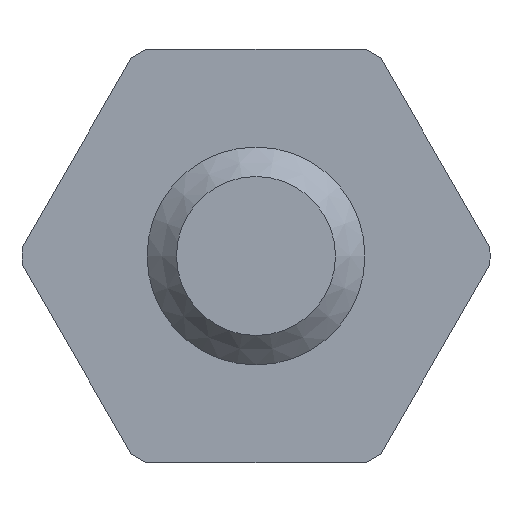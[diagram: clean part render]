
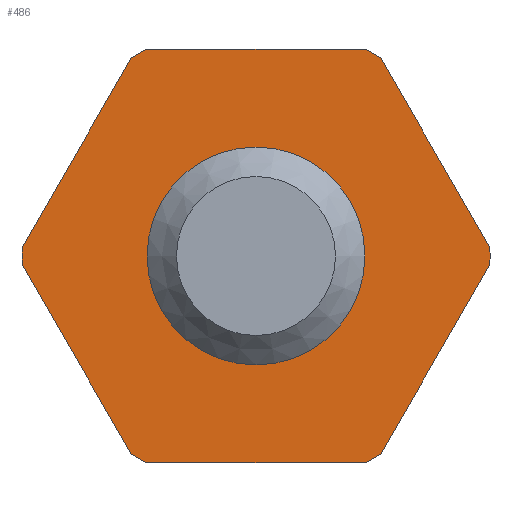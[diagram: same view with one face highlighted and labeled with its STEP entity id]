
A CAD part, left-side view. The second image highlights one B-rep face of the part: STEP entity #486.
In plain terms, the highlighted planar face has unit normal (-1, 0, 0).
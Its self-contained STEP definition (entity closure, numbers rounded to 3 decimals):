
#13=LINE($,#751,#37);
#17=LINE($,#760,#41);
#21=LINE($,#769,#45);
#25=LINE($,#778,#49);
#31=LINE($,#790,#55);
#35=LINE($,#818,#59);
#37=VECTOR($,#613,2.521);
#41=VECTOR($,#619,2.521);
#45=VECTOR($,#625,2.521);
#49=VECTOR($,#631,2.521);
#55=VECTOR($,#639,2.521);
#59=VECTOR($,#681,2.521);
#78=PLANE($,#548);
#97=FACE_BOUND($,#171,.T.);
#124=FACE_OUTER_BOUND($,#170,.T.);
#170=EDGE_LOOP($,(#390,#391,#392,#393,#394,#395,#396,#397,#398,#399,#400,
#401));
#171=EDGE_LOOP($,(#402));
#193=CIRCLE($,#527,2.7);
#194=CIRCLE($,#529,2.7);
#197=CIRCLE($,#533,2.7);
#199=CIRCLE($,#536,2.7);
#201=CIRCLE($,#539,2.7);
#205=CIRCLE($,#547,0.927);
#206=CIRCLE($,#549,2.7);
#222=VERTEX_POINT($,#747);
#224=VERTEX_POINT($,#750);
#226=VERTEX_POINT($,#756);
#228=VERTEX_POINT($,#759);
#230=VERTEX_POINT($,#765);
#232=VERTEX_POINT($,#768);
#234=VERTEX_POINT($,#774);
#236=VERTEX_POINT($,#777);
#239=VERTEX_POINT($,#784);
#241=VERTEX_POINT($,#788);
#243=VERTEX_POINT($,#794);
#244=VERTEX_POINT($,#798);
#248=VERTEX_POINT($,#823);
#265=EDGE_CURVE($,#224,#222,#13,.T.);
#269=EDGE_CURVE($,#228,#226,#17,.T.);
#273=EDGE_CURVE($,#232,#230,#21,.T.);
#277=EDGE_CURVE($,#236,#234,#25,.T.);
#283=EDGE_CURVE($,#239,#241,#31,.T.);
#286=EDGE_CURVE($,#243,#241,#193,.T.);
#287=EDGE_CURVE($,#224,#244,#194,.T.);
#291=EDGE_CURVE($,#239,#234,#197,.T.);
#293=EDGE_CURVE($,#236,#230,#199,.T.);
#295=EDGE_CURVE($,#232,#226,#201,.T.);
#299=EDGE_CURVE($,#243,#244,#35,.T.);
#301=EDGE_CURVE($,#248,#248,#205,.T.);
#302=EDGE_CURVE($,#228,#222,#206,.T.);
#390=ORIENTED_EDGE($,*,*,#265,.T.);
#391=ORIENTED_EDGE($,*,*,#302,.F.);
#392=ORIENTED_EDGE($,*,*,#269,.T.);
#393=ORIENTED_EDGE($,*,*,#295,.F.);
#394=ORIENTED_EDGE($,*,*,#273,.T.);
#395=ORIENTED_EDGE($,*,*,#293,.F.);
#396=ORIENTED_EDGE($,*,*,#277,.T.);
#397=ORIENTED_EDGE($,*,*,#291,.F.);
#398=ORIENTED_EDGE($,*,*,#283,.T.);
#399=ORIENTED_EDGE($,*,*,#286,.F.);
#400=ORIENTED_EDGE($,*,*,#299,.T.);
#401=ORIENTED_EDGE($,*,*,#287,.F.);
#402=ORIENTED_EDGE($,*,*,#301,.T.);
#486=ADVANCED_FACE($,(#124,#97),#78,.T.);
#527=AXIS2_PLACEMENT_3D($,#796,#645,#646);
#529=AXIS2_PLACEMENT_3D($,#799,#649,#650);
#533=AXIS2_PLACEMENT_3D($,#805,#658,#659);
#536=AXIS2_PLACEMENT_3D($,#808,#664,#665);
#539=AXIS2_PLACEMENT_3D($,#811,#670,#671);
#547=AXIS2_PLACEMENT_3D($,#824,#688,#689);
#548=AXIS2_PLACEMENT_3D($,#825,#690,#691);
#549=AXIS2_PLACEMENT_3D($,#826,#692,#693);
#613=DIRECTION($,(0.,0.5,-0.866));
#619=DIRECTION($,(0.,-0.5,-0.866));
#625=DIRECTION($,(0.,-1.,0.));
#631=DIRECTION($,(0.,-0.5,0.866));
#639=DIRECTION($,(0.,0.5,0.866));
#645=DIRECTION('center_axis',(1.,0.,0.));
#646=DIRECTION('ref_axis',(0.,0.,-1.));
#649=DIRECTION('center_axis',(1.,0.,0.));
#650=DIRECTION('ref_axis',(0.,0.,-1.));
#658=DIRECTION('center_axis',(1.,0.,0.));
#659=DIRECTION('ref_axis',(0.,0.,-1.));
#664=DIRECTION('center_axis',(1.,0.,0.));
#665=DIRECTION('ref_axis',(0.,0.,-1.));
#670=DIRECTION('center_axis',(1.,0.,0.));
#671=DIRECTION('ref_axis',(0.,0.,-1.));
#681=DIRECTION($,(0.,1.,0.));
#688=DIRECTION('center_axis',(1.,0.,0.));
#689=DIRECTION('ref_axis',(0.,0.,-1.));
#690=DIRECTION('center_axis',(-1.,0.,0.));
#691=DIRECTION('ref_axis',(0.,0.,1.));
#692=DIRECTION('center_axis',(1.,0.,0.));
#693=DIRECTION('ref_axis',(0.,0.,-1.));
#747=CARTESIAN_POINT('',(-13.38,7.793,0.102));
#750=CARTESIAN_POINT('',(-13.38,6.532,2.286));
#751=CARTESIAN_POINT($,(-13.38,7.494,0.619));
#756=CARTESIAN_POINT('',(-13.38,6.532,-2.286));
#759=CARTESIAN_POINT('',(-13.38,7.793,-0.102));
#760=CARTESIAN_POINT($,(-13.38,7.506,-0.599));
#765=CARTESIAN_POINT('',(-13.38,3.834,-2.388));
#768=CARTESIAN_POINT('',(-13.38,6.355,-2.388));
#769=CARTESIAN_POINT($,(-13.38,6.456,-2.388));
#774=CARTESIAN_POINT('',(-13.38,2.396,-0.102));
#777=CARTESIAN_POINT('',(-13.38,3.657,-2.286));
#778=CARTESIAN_POINT($,(-13.38,3.37,-1.788));
#784=CARTESIAN_POINT('',(-13.38,2.396,0.102));
#788=CARTESIAN_POINT('',(-13.38,3.657,2.286));
#790=CARTESIAN_POINT($,(-13.38,3.359,1.768));
#794=CARTESIAN_POINT('',(-13.38,3.834,2.388));
#796=CARTESIAN_POINT('Origin',(-13.38,5.095,0.));
#798=CARTESIAN_POINT('',(-13.38,6.355,2.388));
#799=CARTESIAN_POINT('Origin',(-13.38,5.095,0.));
#805=CARTESIAN_POINT('Origin',(-13.38,5.095,0.));
#808=CARTESIAN_POINT('Origin',(-13.38,5.095,0.));
#811=CARTESIAN_POINT('Origin',(-13.38,5.095,0.));
#818=CARTESIAN_POINT($,(-13.38,6.433,2.388));
#823=CARTESIAN_POINT('',(-13.38,6.022,0.));
#824=CARTESIAN_POINT('Origin',(-13.38,5.095,0.));
#825=CARTESIAN_POINT('Origin',(-13.38,7.795,0.));
#826=CARTESIAN_POINT('Origin',(-13.38,5.095,0.));
